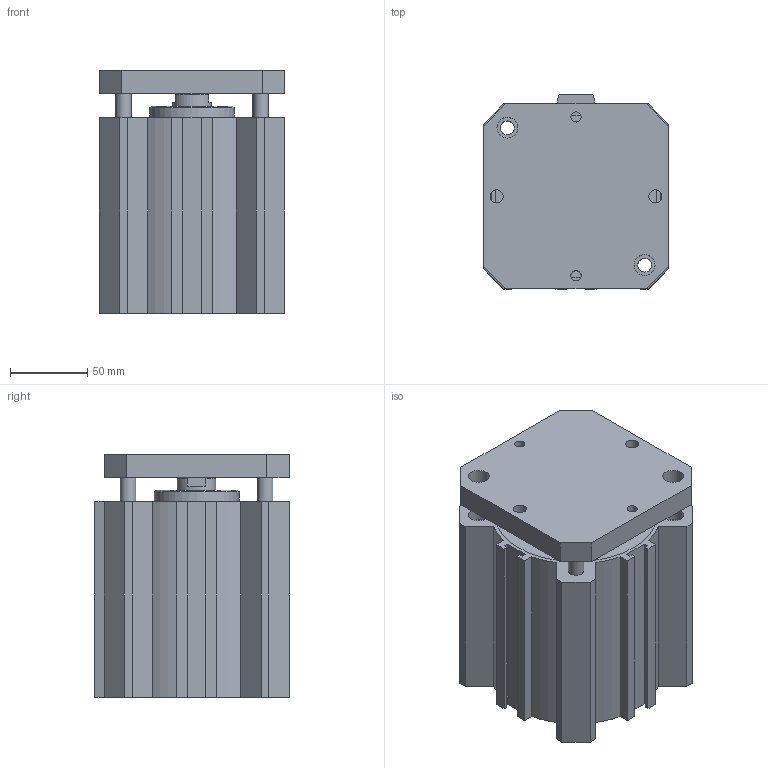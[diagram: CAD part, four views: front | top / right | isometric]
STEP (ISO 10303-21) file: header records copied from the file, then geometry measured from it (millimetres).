
FILE_DESCRIPTION(/* description */ (''),/* implementation_level */ '2;1');
FILE_NAME(/* name */ 'I:\Area Tecnica\Disegni\VARIE-3D\Componenti\1500\Ø100\15##_100_####_#\1501_100_0080_AR.stp',/* time_stamp */ '2016-08-24T15:16:35+02:00',/* author */ ('Maniean1'),/* organization */ (''),/* preprocessor_version */ 'ST-DEVELOPER v15.2',/* originating_system */ 'Autodesk Inventor 2014',/* authorisation */ '');
FILE_SCHEMA (('AUTOMOTIVE_DESIGN { 1 0 10303 214 3 1 1 }'));
Length unit declared in the file: millimetre
Products named in the file (3): C_1501_100_0080_AR; S_1501_100_0080_AR; 1501_100_0080_AR
Bounding box: 120 x 126 x 157.5 mm (x, y, z)
Volume: 1115804.1 mm3; surface area: 243317.3 mm2
Topology: 2 solids, 2 shells, 139 faces, 342 edges, 229 vertices
Faces by surface type: plane 94, cylinder 40, cone 5
Full cylindrical faces by diameter (mm): 6.647 x2, 8.5 x2, 9 x4, 10 x4, 13.5 x10, 14.95 x2, 25 x2, 55 x2, 100 x2, 105 x2
Entity records: 3978 total; most frequent: CARTESIAN_POINT 674, DIRECTION 672, ORIENTED_EDGE 600, EDGE_CURVE 300, AXIS2_PLACEMENT_3D 232, VERTEX_POINT 222, EDGE_LOOP 216, LINE 208
